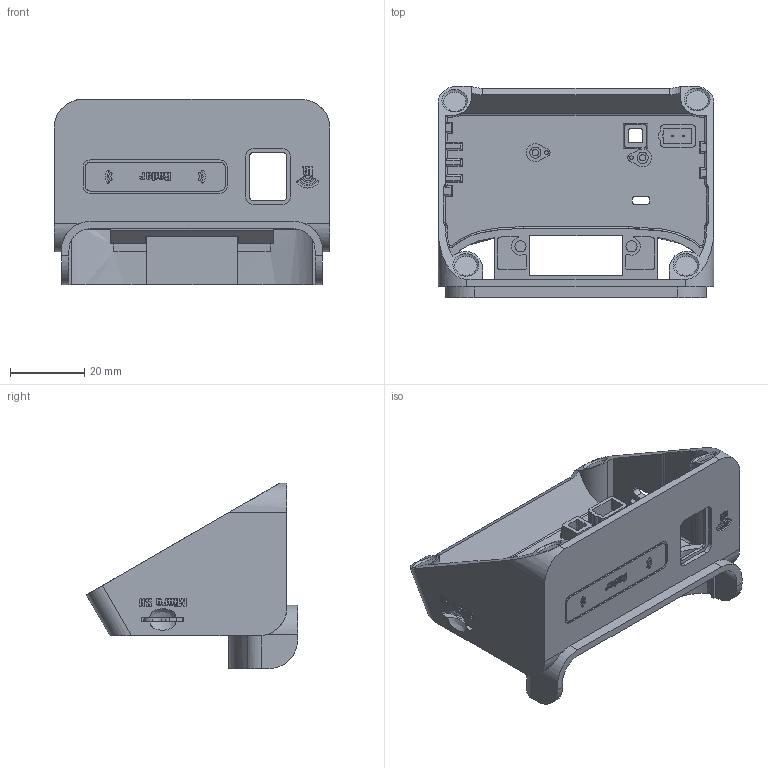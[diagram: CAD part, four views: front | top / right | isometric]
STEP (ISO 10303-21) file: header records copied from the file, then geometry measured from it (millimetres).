
FILE_DESCRIPTION (( 'STEP AP203' ), '1' );
FILE_NAME ('ESP32-S3-BOX-3-SENSOR.STEP', '2023-09-19T07:20:59', ( 'Windows User' ), ( 'P R C' ), 'SwSTEP 2.0', 'SolidWorks 2017', '' );
FILE_SCHEMA (( 'CONFIG_CONTROL_DESIGN' ));
Length unit declared in the file: millimetre
Products named in the file (1): ESP32-S3-BOX-3-SENSOR
Bounding box: 74.5 x 57.08 x 50.06 mm (x, y, z)
Volume: 21506.3 mm3; surface area: 22652.8 mm2
Topology: 1 solids, 1 shells, 1262 faces, 3423 edges, 2261 vertices
Faces by surface type: plane 737, cylinder 258, bspline 247, torus 12, cone 8
Entity records: 50642 total; most frequent: CARTESIAN_POINT 20241, ORIENTED_EDGE 6846, DIRECTION 5313, EDGE_CURVE 3423, LINE 2395, VECTOR 2395, VERTEX_POINT 2261, AXIS2_PLACEMENT_3D 1459
